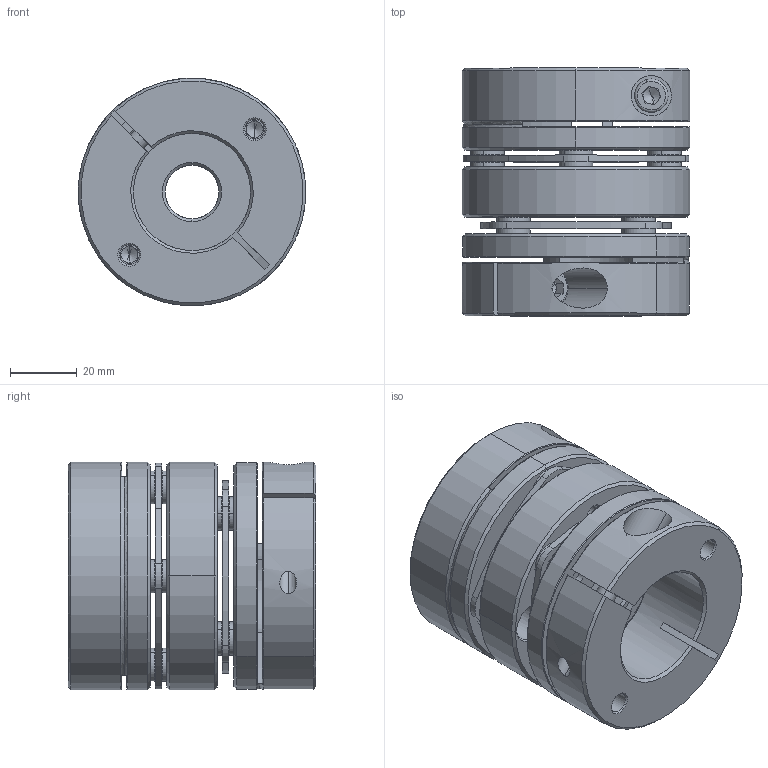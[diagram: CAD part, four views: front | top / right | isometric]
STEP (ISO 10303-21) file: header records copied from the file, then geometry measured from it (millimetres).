
FILE_DESCRIPTION (( 'STEP AP203' ), '1' );
FILE_NAME ('LD2-D68-16-35.STEP', '2021-10-26T08:21:00', ( '' ), ( '' ), 'SwSTEP 2.0', 'SolidWorks 2018', '' );
FILE_SCHEMA (( 'CONFIG_CONTROL_DESIGN' ));
Length unit declared in the file: millimetre
Products named in the file (2): LD2-D68-16-35; 錨璃102^LD2-D68
Assembly tree (1 placements, depth 2):
  LD2-D68-16-35
    錨璃102^LD2-D68
Bounding box: 68 x 74 x 68 mm (x, y, z)
Volume: 177493.1 mm3; surface area: 63396 mm2
Topology: 1 solids, 27 shells, 734 faces, 1712 edges, 1042 vertices
Faces by surface type: cylinder 256, cone 226, plane 222, torus 30
Entity records: 21554 total; most frequent: DIRECTION 4004, CARTESIAN_POINT 3937, ORIENTED_EDGE 3376, EDGE_CURVE 1688, AXIS2_PLACEMENT_3D 1625, VERTEX_POINT 1042, CIRCLE 887, EDGE_LOOP 870
